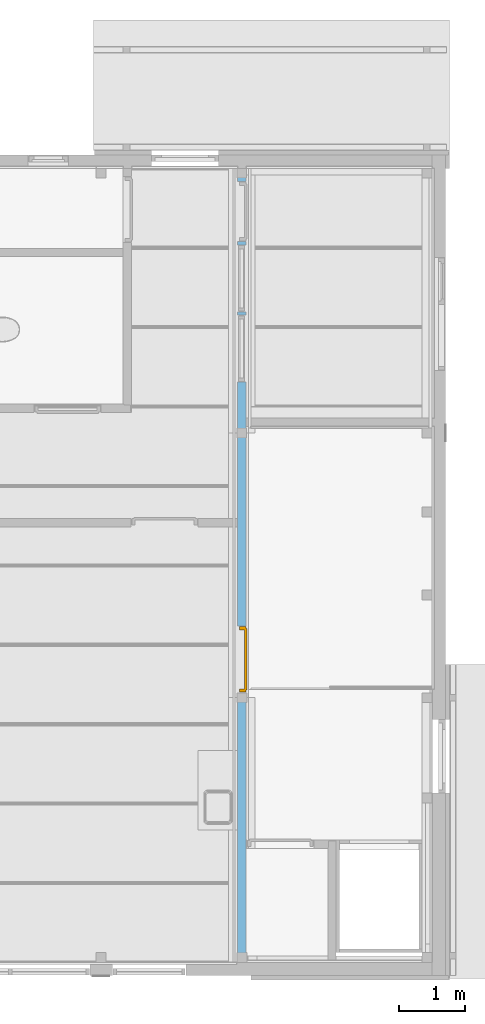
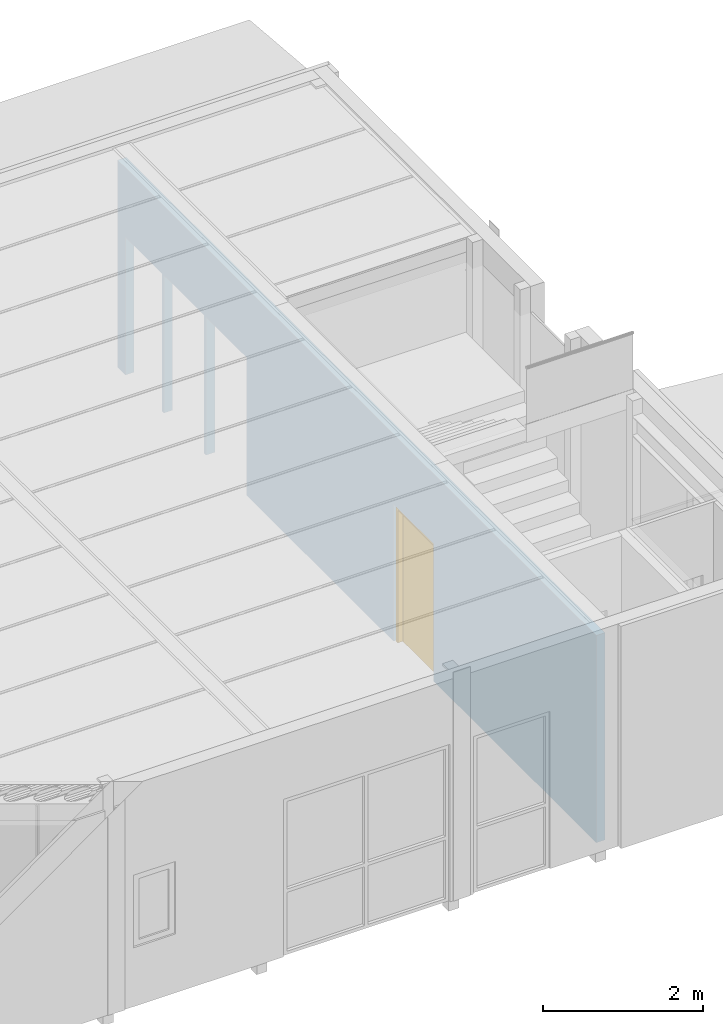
# One storey, part 37 of 45: 1 door, 4 openings, plus 1 element that does not belong to this part.
"""IFC2X3 building model written with IfcOpenShell, lengths in millimetres."""

from ifc_helpers import new_model, entity, si_unit, converted_unit, frame, frame_2d, origin, origin_with_axes, place, context, subcontext, project, spatial, rectangle, extrude, faceted_brep, material, layer, layer_set, layer_usage, type_object, element, fill, save


model = new_model("IFC2X3")

# Units and contexts
model_context = context("Model", 3, precision=1e-05, world=origin())
plan_context = context("Plan", 3, precision=1e-05, world=origin())
body_context = subcontext(model_context, "Body", "Model", "MODEL_VIEW")
ifc_project = project(units=[si_unit("LENGTHUNIT", "METRE", prefix="MILLI"), converted_unit("PLANEANGLEUNIT", "DEGREE", entity("IfcPlaneAngleMeasure", 0.0174532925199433), si_unit("PLANEANGLEUNIT", "RADIAN"), dimensions=[0, 0, 0, 0, 0, 0, 0]), si_unit("AREAUNIT", "SQUARE_METRE"), si_unit("VOLUMEUNIT", "CUBIC_METRE")], contexts=[model_context, plan_context])

# Building, storey
building_placement = place(None, origin())
building = spatial("IfcBuilding", under=ifc_project, at=building_placement, Name="HEKF Administrasjonbygg", CompositionType="ELEMENT")
storey_placement = place(building_placement, frame((0.0, 0.0, 6500.0), z_axis=(0.0, 0.0, 1.0), x_axis=(1.0, 0.0, 0.0)))
storey = spatial("IfcBuildingStorey", under=building, at=storey_placement, Name="Plan 1", CompositionType="ELEMENT", Elevation=6500.0)

# Wall, openings, door
ifc_material_1 = material(Name="gips")
ifc_layer_1 = layer(ifc_material_1, 13.0)
ifc_material_2 = material(Name="riegel stål 100")
ifc_layer_2 = layer(ifc_material_2, 100.0)
ifc_material_3 = material(Name="gips")
ifc_layer_3 = layer(ifc_material_3, 13.0)
ifc_layer_set = layer_set([ifc_layer_1, ifc_layer_2, ifc_layer_3])
ifc_layer_usage = layer_usage(ifc_layer_set, "AXIS2", "POSITIVE", 0.0)
wall_placement = place(storey_placement, frame((27188.53680645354, -12000.0, 0.0), z_axis=(0.0, 0.0, 1.0), x_axis=(0.0, 1.0, 0.0)))
wall = element("IfcWallStandardCase", 1, at=wall_placement, inside=storey, material=ifc_layer_usage, context=body_context, shape_type="SweptSolid", body=[
    extrude(rectangle(XDim=12000.0, YDim=126.0, at=frame_2d((6000.0, 63.0), x_axis=(1.0, 0.0))), origin_with_axes(), (0.0, 0.0, 1.0), 3170.0),
])
opening_1_placement = place(wall_placement, frame((9830.0, 0.0, 0.0), z_axis=(0.0, 1.0, 0.0), x_axis=(0.0, 0.0, 1.0)))
element("IfcOpeningElement", 2, at=opening_1_placement, cuts=wall, Name="GF001", ObjectType="Opening", context=body_context, shape_type="SweptSolid", body=[
    extrude(rectangle(XDim=2110.0, YDim=1010.0, at=frame_2d((1055.0, 505.0), x_axis=(1.0, 0.0))), origin_with_axes(), (0.0, 0.0, 1.0), 126.0),
])
opening_2_placement = place(wall_placement, frame((8770.0, 0.0, 0.0), z_axis=(0.0, 1.0, 0.0), x_axis=(0.0, 0.0, 1.0)))
element("IfcOpeningElement", 3, at=opening_2_placement, cuts=wall, Name="GF002", ObjectType="Opening", context=body_context, shape_type="SweptSolid", body=[
    extrude(rectangle(XDim=2110.0, YDim=1010.0, at=frame_2d((1055.0, 505.0), x_axis=(1.0, 0.0))), origin_with_axes(), (0.0, 0.0, 1.0), 126.0),
])
opening_3_placement = place(wall_placement, frame((10890.0, 0.0, 0.0), z_axis=(0.0, 1.0, 0.0), x_axis=(0.0, 0.0, 1.0)))
element("IfcOpeningElement", 4, at=opening_3_placement, cuts=wall, Name="Door opening", ObjectType="Opening", context=body_context, shape_type="SweptSolid", body=[
    extrude(rectangle(XDim=2110.0, YDim=910.0, at=frame_2d((1055.0, 455.0), x_axis=(1.0, 0.0))), origin_with_axes(), (0.0, 0.0, 1.0), 126.0),
])
opening_4_placement = place(wall_placement, frame((4075.0, 0.0, 0.0), z_axis=(0.0, 1.0, 0.0), x_axis=(0.0, 0.0, 1.0)))
opening_4 = element("IfcOpeningElement", 5, at=opening_4_placement, cuts=wall, Name="Door opening", ObjectType="Opening", context=body_context, shape_type="SweptSolid", body=[
    extrude(rectangle(XDim=2100.0, YDim=1010.0, at=frame_2d((1050.0, 505.0), x_axis=(1.0, 0.0))), origin_with_axes(), (0.0, 0.0, 1.0), 126.0),
])
ifc_material_4 = material()
door_style = type_object("IfcDoorStyle", Name="D028", ConstructionType="NOTDEFINED", OperationType="USERDEFINED", ParameterTakesPrecedence=False, Sizeable=False)
door_placement = place(opening_4_placement, frame((0.0, 0.0, 0.0), z_axis=(1.0, 0.0, 0.0), x_axis=(0.0, 1.0, 0.0)))
door = element("IfcDoor", 6, at=door_placement, inside=storey, type_object=door_style, material=ifc_material_4, Name="D028", OverallHeight=2100.0, OverallWidth=1010.0, context=body_context, shape_type="Brep", body=[
    faceted_brep([(9.999999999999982, 3.999999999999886, 2080.0), (59.99999999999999, 3.999999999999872, 2080.0), (59.99999999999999, 4.0, -2.816687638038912e-15), (9.999999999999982, 4.000000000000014, -2.816687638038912e-15), (10.0, 96.0, 2.816687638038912e-15), (60.0, 95.99999999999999, 2.816687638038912e-15), (60.0, 95.99999999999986, 2080.0), (10.0, 95.99999999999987, 2080.0), (9.999999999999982, 4.000000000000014, -2.816687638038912e-15), (10.0, 96.0, 2.816687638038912e-15), (10.0, 95.99999999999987, 2080.0), (9.999999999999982, 3.999999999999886, 2080.0), (59.99999999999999, 4.0, -2.816687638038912e-15), (60.0, 95.99999999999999, 2.816687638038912e-15), (10.0, 96.0, 2.816687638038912e-15), (9.999999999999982, 4.000000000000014, -2.816687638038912e-15), (59.99999999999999, 3.999999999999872, 2080.0), (60.0, 95.99999999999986, 2080.0), (60.0, 95.99999999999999, 2.816687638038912e-15), (59.99999999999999, 4.0, -2.816687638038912e-15), (9.999999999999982, 3.999999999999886, 2080.0), (10.0, 95.99999999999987, 2080.0), (60.0, 95.99999999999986, 2080.0), (59.99999999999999, 3.999999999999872, 2080.0)], [[[0, 1, 2, 3]], [[4, 5, 6, 7]], [[8, 9, 10, 11]], [[12, 13, 14, 15]], [[16, 17, 18, 19]], [[20, 21, 22, 23]]], orient=[[False], [False], [False], [False], [False], [False]]),
    faceted_brep([(950.0, 3.999999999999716, 2080.0), (1000.0, 3.999999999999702, 2080.0), (1000.0, 3.99999999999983, -2.816687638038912e-15), (950.0, 3.999999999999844, -2.816687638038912e-15), (950.0, 95.99999999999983, 2.816687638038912e-15), (1000.0, 95.99999999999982, 2.816687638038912e-15), (1000.0, 95.99999999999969, 2080.0), (950.0, 95.9999999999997, 2080.0), (950.0, 3.999999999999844, -2.816687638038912e-15), (950.0, 95.99999999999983, 2.816687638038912e-15), (950.0, 95.9999999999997, 2080.0), (950.0, 3.999999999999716, 2080.0), (1000.0, 3.99999999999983, -2.816687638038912e-15), (1000.0, 95.99999999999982, 2.816687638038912e-15), (950.0, 95.99999999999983, 2.816687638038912e-15), (950.0, 3.999999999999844, -2.816687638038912e-15), (1000.0, 3.999999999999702, 2080.0), (1000.0, 95.99999999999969, 2080.0), (1000.0, 95.99999999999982, 2.816687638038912e-15), (1000.0, 3.99999999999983, -2.816687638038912e-15), (950.0, 3.999999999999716, 2080.0), (950.0, 95.9999999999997, 2080.0), (1000.0, 95.99999999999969, 2080.0), (1000.0, 3.999999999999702, 2080.0)], [[[0, 1, 2, 3]], [[4, 5, 6, 7]], [[8, 9, 10, 11]], [[12, 13, 14, 15]], [[16, 17, 18, 19]], [[20, 21, 22, 23]]], orient=[[False], [False], [False], [False], [False], [False]]),
    faceted_brep([(59.99999999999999, 3.999999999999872, 2080.0), (949.9999999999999, 3.999999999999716, 2080.0), (949.9999999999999, 3.999999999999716, 2030.0), (59.99999999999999, 3.999999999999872, 2030.0), (60.0, 95.99999999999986, 2030.0), (949.9999999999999, 95.9999999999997, 2030.0), (949.9999999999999, 95.9999999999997, 2080.000000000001), (60.0, 95.99999999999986, 2080.000000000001), (59.99999999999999, 3.999999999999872, 2030.0), (60.0, 95.99999999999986, 2030.0), (60.0, 95.99999999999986, 2080.000000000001), (59.99999999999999, 3.999999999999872, 2080.0), (949.9999999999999, 3.999999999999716, 2030.0), (949.9999999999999, 95.9999999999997, 2030.0), (60.0, 95.99999999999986, 2030.0), (59.99999999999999, 3.999999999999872, 2030.0), (949.9999999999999, 3.999999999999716, 2080.0), (949.9999999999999, 95.9999999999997, 2080.000000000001), (949.9999999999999, 95.9999999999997, 2030.0), (949.9999999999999, 3.999999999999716, 2030.0), (59.99999999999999, 3.999999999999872, 2080.0), (60.0, 95.99999999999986, 2080.000000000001), (949.9999999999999, 95.9999999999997, 2080.000000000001), (949.9999999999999, 3.999999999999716, 2080.0)], [[[0, 1, 2, 3]], [[4, 5, 6, 7]], [[8, 9, 10, 11]], [[12, 13, 14, 15]], [[16, 17, 18, 19]], [[20, 21, 22, 23]]], orient=[[False], [False], [False], [False], [False], [False]]),
    faceted_brep([(39.99999999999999, -16.00000000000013, 2050.000000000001), (969.9999999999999, -16.0000000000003, 2050.000000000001), (969.9999999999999, -16.00000000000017, -4.041334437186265e-15), (39.99999999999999, -16.0, -4.041334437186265e-15), (39.99999999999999, 24.0, -1.592040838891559e-15), (969.9999999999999, 23.99999999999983, -1.592040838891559e-15), (969.9999999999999, 23.9999999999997, 2050.000000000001), (39.99999999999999, 23.99999999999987, 2050.000000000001), (39.99999999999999, -16.0, -4.041334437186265e-15), (39.99999999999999, 24.0, -1.592040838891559e-15), (39.99999999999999, 23.99999999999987, 2050.000000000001), (39.99999999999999, -16.00000000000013, 2050.000000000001), (969.9999999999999, -16.00000000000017, -4.041334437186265e-15), (969.9999999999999, 23.99999999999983, -1.592040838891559e-15), (39.99999999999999, 24.0, -1.592040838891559e-15), (39.99999999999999, -16.0, -4.041334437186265e-15), (969.9999999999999, -16.0000000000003, 2050.000000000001), (969.9999999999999, 23.9999999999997, 2050.000000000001), (969.9999999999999, 23.99999999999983, -1.592040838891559e-15), (969.9999999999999, -16.00000000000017, -4.041334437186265e-15), (39.99999999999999, -16.00000000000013, 2050.000000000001), (39.99999999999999, 23.99999999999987, 2050.000000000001), (969.9999999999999, 23.9999999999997, 2050.000000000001), (969.9999999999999, -16.0000000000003, 2050.000000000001)], [[[0, 1, 2, 3]], [[4, 5, 6, 7]], [[8, 9, 10, 11]], [[12, 13, 14, 15]], [[16, 17, 18, 19]], [[20, 21, 22, 23]]], orient=[[False], [False], [False], [False], [False], [False]]),
])
fill(opening_4, door)

save(model, "model.ifc")
